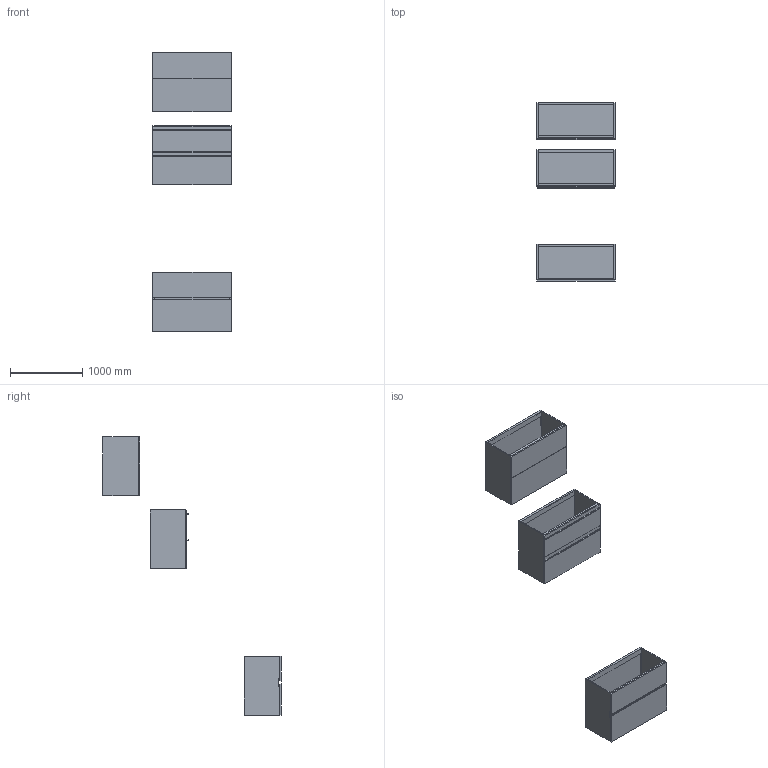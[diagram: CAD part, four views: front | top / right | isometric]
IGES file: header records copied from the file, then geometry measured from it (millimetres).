
Start section: Data from Parasolid IGES Translator 19.0.9, Copyright(c) 2006 Siemens PL M Software. All Rights Reserved.
Global section: file name: noorth-SI-H 81,2 D 51 W 108_9723.igs; native system: By Siemens PLM Incorporated; preprocessor: XPlus GENERIC/IGES 19.0.9; author: Noname; organization: Noname; date: 20200601.140942; units: metre
Bounding box: 1080 x 2458 x 3842 mm (x, y, z)
Volume: 128027904.7 mm3; surface area: 20001272.3 mm2
Topology: 27 solids, 27 shells, 266 faces, 580 edges, 348 vertices
Faces by surface type: plane 182, extrusion 36, bspline 32, cylinder 16
